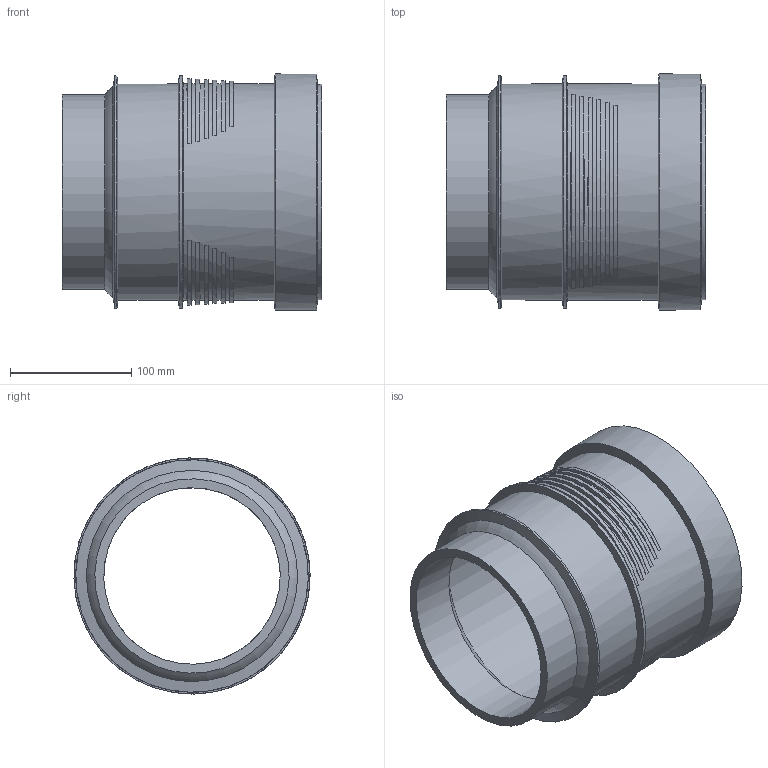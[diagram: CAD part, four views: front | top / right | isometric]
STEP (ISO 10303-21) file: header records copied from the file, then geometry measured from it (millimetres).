
FILE_DESCRIPTION(/* description */ (''),/* implementation_level */ '2;1');
FILE_NAME(/* name */ 'H:\Geberit-Teile\Export\Fertig zum Export\Langmuffen m. Doppelbund\stp\315012.stp',/* time_stamp */ '2017-07-17T11:57:47+02:00',/* author */ ('seihe2'),/* organization */ (''),/* preprocessor_version */ 'ST-DEVELOPER v15.2',/* originating_system */ 'Autodesk Inventor 2014',/* authorisation */ '');
FILE_SCHEMA (('AUTOMOTIVE_DESIGN { 1 0 10303 214 3 1 1 }'));
Length unit declared in the file: millimetre
Products named in the file (1): 315012
Bounding box: 214.5 x 194.95 x 194.97 mm (x, y, z)
Volume: 934388.2 mm3; surface area: 280789.2 mm2
Topology: 1 solids, 1 shells, 83 faces, 228 edges, 159 vertices
Faces by surface type: cone 54, cylinder 23, torus 3, plane 2, bspline 1
Full cylindrical faces by diameter (mm): 145.775 x1, 160.475 x1, 164.1 x1, 164.85 x1, 177.9 x1, 178.5 x1, 178.8 x1, 181.95 x1, 192 x2, 195 x1
Entity records: 3301 total; most frequent: CARTESIAN_POINT 1283, ORIENTED_EDGE 396, DIRECTION 363, EDGE_CURVE 198, AXIS2_PLACEMENT_3D 157, VERTEX_POINT 148, EDGE_LOOP 116, STYLED_ITEM 84
